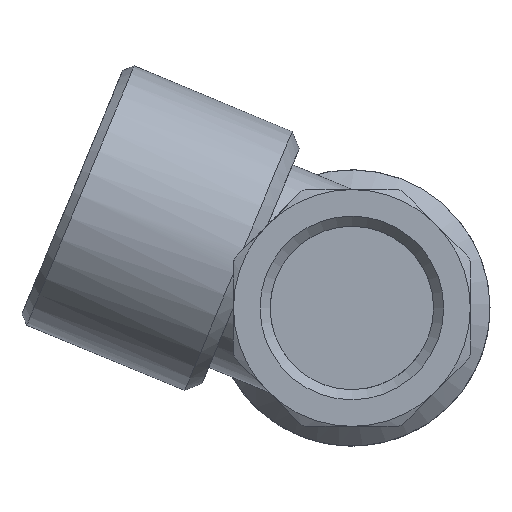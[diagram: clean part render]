
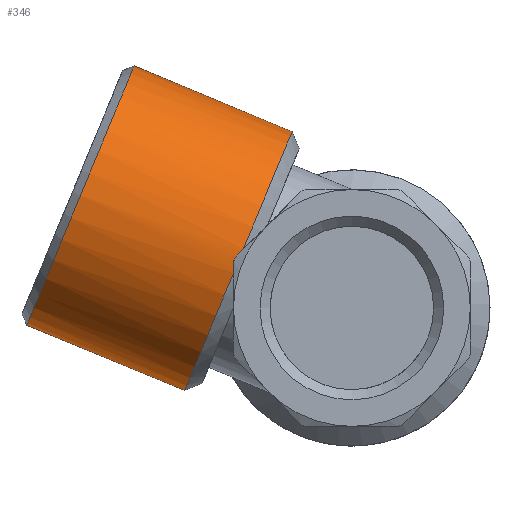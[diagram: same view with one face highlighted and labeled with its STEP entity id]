
A CAD part, front view. The second image highlights one B-rep face of the part: STEP entity #346.
In plain terms, the highlighted cylindrical face has radius 16 mm (diameter 32 mm), a full revolution.
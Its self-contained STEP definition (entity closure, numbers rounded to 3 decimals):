
#255=CARTESIAN_POINT('',(-30.95,20.5,12.82));
#256=VERTEX_POINT('',#255);
#257=CARTESIAN_POINT('',(-30.95,4.5,12.82));
#258=DIRECTION('',(-0.924,0.0,0.383));
#259=DIRECTION('',(0.0,-1.0,0.0));
#260=AXIS2_PLACEMENT_3D('',#257,#258,#259);
#261=CIRCLE('',#260,16.);
#262=EDGE_CURVE('',#256,#256,#261,.T.);
#270=CARTESIAN_POINT('',(-22.404,4.5,9.28));
#271=DIRECTION('',(-0.924,0.0,0.383));
#272=DIRECTION('',(0.0,1.0,0.0));
#273=AXIS2_PLACEMENT_3D('',#270,#271,#272);
#274=CYLINDRICAL_SURFACE('',#273,16.);
#275=CARTESIAN_POINT('',(-13.5,-11.498,5.292));
#276=VERTEX_POINT('',#275);
#277=CARTESIAN_POINT('',(-13.5,-11.432,3.992));
#278=VERTEX_POINT('',#277);
#279=CARTESIAN_POINT('',(-13.5,4.5,5.592));
#280=DIRECTION('',(1.0,0.,0.0));
#281=DIRECTION('',(0.0,0.0,-1.0));
#282=AXIS2_PLACEMENT_3D('',#279,#280,#281);
#283=ELLIPSE('',#282,17.318,16.);
#284=EDGE_CURVE('',#276,#278,#283,.T.);
#285=ORIENTED_EDGE('',*,*,#284,.F.);
#286=CARTESIAN_POINT('',(-13.288,-11.498,5.804));
#287=VERTEX_POINT('',#286);
#288=CARTESIAN_POINT('',(-13.288,-11.498,5.804));
#289=CARTESIAN_POINT('',(-13.325,-11.499,5.719));
#290=CARTESIAN_POINT('',(-13.361,-11.5,5.634));
#291=CARTESIAN_POINT('',(-13.432,-11.5,5.464));
#292=CARTESIAN_POINT('',(-13.466,-11.499,5.378));
#293=CARTESIAN_POINT('',(-13.5,-11.498,5.292));
#294=B_SPLINE_CURVE_WITH_KNOTS('',3,(#288,#289,#290,#291,#292,#293),.UNSPECIFIED.,.F.,.U.,(4,2,4),(7.311,7.339,7.367),.UNSPECIFIED.);
#295=EDGE_CURVE('',#287,#276,#294,.T.);
#296=ORIENTED_EDGE('',*,*,#295,.F.);
#297=CARTESIAN_POINT('',(-12.369,-11.432,6.723));
#298=VERTEX_POINT('',#297);
#299=CARTESIAN_POINT('',(-13.5,4.5,5.592));
#300=DIRECTION('',(0.707,0.,-0.707));
#301=DIRECTION('',(-0.707,0.0,-0.707));
#302=AXIS2_PLACEMENT_3D('',#299,#300,#301);
#303=ELLIPSE('',#302,17.318,16.);
#304=EDGE_CURVE('',#298,#287,#303,.T.);
#305=ORIENTED_EDGE('',*,*,#304,.F.);
#306=CARTESIAN_POINT('',(-10.173,18.781,12.024));
#307=VERTEX_POINT('',#306);
#308=CARTESIAN_POINT('',(-12.934,4.5,5.358));
#309=DIRECTION('',(-0.924,0.0,0.383));
#310=DIRECTION('',(0.0,1.0,0.0));
#311=AXIS2_PLACEMENT_3D('',#308,#309,#310);
#312=CIRCLE('',#311,16.);
#313=EDGE_CURVE('',#298,#307,#312,.T.);
#314=ORIENTED_EDGE('',*,*,#313,.T.);
#315=CARTESIAN_POINT('',(-15.696,18.781,-1.309));
#316=VERTEX_POINT('',#315);
#317=CARTESIAN_POINT('',(-15.696,18.781,-1.309));
#318=CARTESIAN_POINT('',(-15.724,18.933,-0.97));
#319=CARTESIAN_POINT('',(-15.741,19.077,-0.628));
#320=CARTESIAN_POINT('',(-15.766,19.624,0.767));
#321=CARTESIAN_POINT('',(-15.679,19.951,1.845));
#322=CARTESIAN_POINT('',(-15.279,20.389,3.975));
#323=CARTESIAN_POINT('',(-14.965,20.5,5.028));
#324=CARTESIAN_POINT('',(-14.137,20.5,7.027));
#325=CARTESIAN_POINT('',(-13.614,20.389,7.993));
#326=CARTESIAN_POINT('',(-12.391,19.951,9.782));
#327=CARTESIAN_POINT('',(-11.691,19.624,10.606));
#328=CARTESIAN_POINT('',(-10.686,19.077,11.575));
#329=CARTESIAN_POINT('',(-10.432,18.933,11.805));
#330=CARTESIAN_POINT('',(-10.173,18.781,12.024));
#331=B_SPLINE_CURVE_WITH_KNOTS('',3,(#317,#318,#319,#320,#321,#322,#323,#324,#325,#326,#327,#328,#329,#330),.UNSPECIFIED.,.F.,.U.,(4,2,2,2,2,2,4),(2.148,2.254,2.579,2.903,3.228,3.553,3.659),.UNSPECIFIED.);
#332=EDGE_CURVE('',#316,#307,#331,.T.);
#333=ORIENTED_EDGE('',*,*,#332,.F.);
#334=CARTESIAN_POINT('',(-12.934,4.5,5.358));
#335=DIRECTION('',(-0.924,0.0,0.383));
#336=DIRECTION('',(0.0,1.0,0.0));
#337=AXIS2_PLACEMENT_3D('',#334,#335,#336);
#338=CIRCLE('',#337,16.);
#339=EDGE_CURVE('',#316,#278,#338,.T.);
#340=ORIENTED_EDGE('',*,*,#339,.T.);
#341=EDGE_LOOP('',(#285,#296,#305,#314,#333,#340));
#342=FACE_OUTER_BOUND('',#341,.T.);
#343=ORIENTED_EDGE('',*,*,#262,.F.);
#344=EDGE_LOOP('',(#343));
#345=FACE_BOUND('',#344,.T.);
#346=ADVANCED_FACE('',(#342,#345),#274,.T.);
